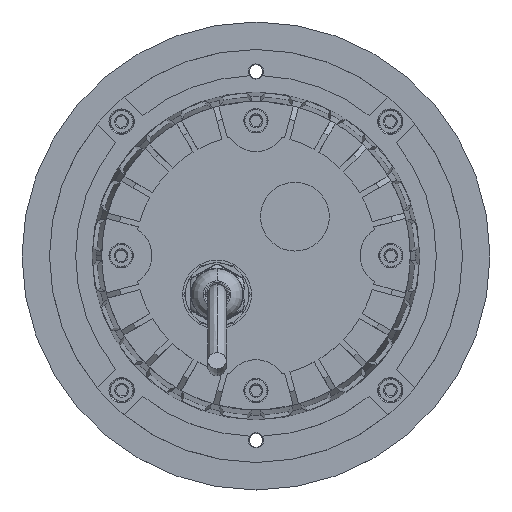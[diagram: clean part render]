
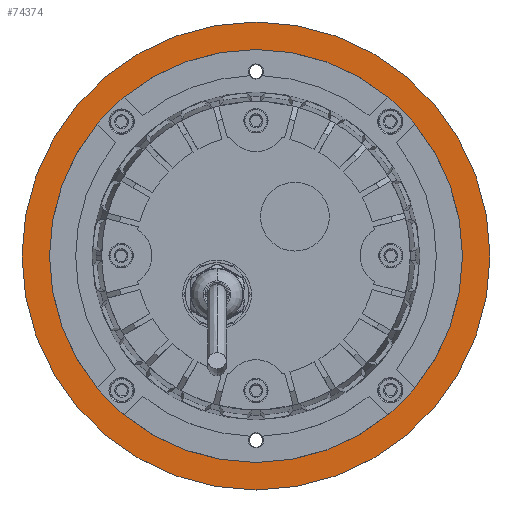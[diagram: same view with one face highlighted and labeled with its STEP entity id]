
A CAD part, top view. The second image highlights one B-rep face of the part: STEP entity #74374.
In plain terms, the highlighted planar face has unit normal (0, 0, 1).
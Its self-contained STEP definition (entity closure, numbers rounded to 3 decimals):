
#73519=CARTESIAN_POINT('',(0.,0.,3.));
#73520=DIRECTION('',(0.,0.,1.));
#73521=DIRECTION('',(1.,0.,0.));
#73522=AXIS2_PLACEMENT_3D('',#73519,#73520,#73521);
#73528=CARTESIAN_POINT('',(48.79,-48.79,3.));
#73529=DIRECTION('',(0.,0.,-1.));
#73530=DIRECTION('',(1.,0.,0.));
#73531=AXIS2_PLACEMENT_3D('',#73528,#73529,#73530);
#73533=CARTESIAN_POINT('',(48.79,-48.79,3.));
#73534=DIRECTION('',(0.,0.,-1.));
#73535=DIRECTION('',(-1.,0.,0.));
#73536=AXIS2_PLACEMENT_3D('',#73533,#73534,#73535);
#73538=CARTESIAN_POINT('',(-48.79,-48.79,3.));
#73539=DIRECTION('',(0.,0.,-1.));
#73540=DIRECTION('',(1.,0.,0.));
#73541=AXIS2_PLACEMENT_3D('',#73538,#73539,#73540);
#73543=CARTESIAN_POINT('',(-48.79,-48.79,3.));
#73544=DIRECTION('',(0.,0.,-1.));
#73545=DIRECTION('',(-1.,0.,0.));
#73546=AXIS2_PLACEMENT_3D('',#73543,#73544,#73545);
#73548=CARTESIAN_POINT('',(-48.79,48.79,3.));
#73549=DIRECTION('',(0.,0.,-1.));
#73550=DIRECTION('',(1.,0.,0.));
#73551=AXIS2_PLACEMENT_3D('',#73548,#73549,#73550);
#73553=CARTESIAN_POINT('',(-48.79,48.79,3.));
#73554=DIRECTION('',(0.,0.,-1.));
#73555=DIRECTION('',(-1.,0.,0.));
#73556=AXIS2_PLACEMENT_3D('',#73553,#73554,#73555);
#73558=CARTESIAN_POINT('',(48.79,48.79,3.));
#73559=DIRECTION('',(0.,0.,-1.));
#73560=DIRECTION('',(1.,0.,0.));
#73561=AXIS2_PLACEMENT_3D('',#73558,#73559,#73560);
#73563=CARTESIAN_POINT('',(48.79,48.79,3.));
#73564=DIRECTION('',(0.,0.,-1.));
#73565=DIRECTION('',(-1.,0.,0.));
#73566=AXIS2_PLACEMENT_3D('',#73563,#73564,#73565);
#73568=CARTESIAN_POINT('',(0.,0.,3.));
#73569=DIRECTION('',(0.,0.,-1.));
#73570=DIRECTION('',(-1.,0.,0.));
#73571=AXIS2_PLACEMENT_3D('',#73568,#73569,#73570);
#73573=CARTESIAN_POINT('',(0.,0.,3.));
#73574=DIRECTION('',(0.,0.,-1.));
#73575=DIRECTION('',(1.,0.,0.));
#73576=AXIS2_PLACEMENT_3D('',#73573,#73574,#73575);
#73578=CARTESIAN_POINT('',(0.,-67.,3.));
#73579=DIRECTION('',(0.,0.,1.));
#73580=DIRECTION('',(-1.,0.,0.));
#73581=AXIS2_PLACEMENT_3D('',#73578,#73579,#73580);
#73583=CARTESIAN_POINT('',(0.,-67.,3.));
#73584=DIRECTION('',(0.,0.,1.));
#73585=DIRECTION('',(1.,0.,0.));
#73586=AXIS2_PLACEMENT_3D('',#73583,#73584,#73585);
#73588=CARTESIAN_POINT('',(0.,67.,3.));
#73589=DIRECTION('',(0.,0.,1.));
#73590=DIRECTION('',(-1.,0.,0.));
#73591=AXIS2_PLACEMENT_3D('',#73588,#73589,#73590);
#73593=CARTESIAN_POINT('',(0.,67.,3.));
#73594=DIRECTION('',(0.,0.,1.));
#73595=DIRECTION('',(1.,0.,0.));
#73596=AXIS2_PLACEMENT_3D('',#73593,#73594,#73595);
#73598=CARTESIAN_POINT('',(31.25,54.127,3.));
#73599=DIRECTION('',(0.,0.,-1.));
#73600=DIRECTION('',(1.,0.,0.));
#73601=AXIS2_PLACEMENT_3D('',#73598,#73599,#73600);
#73603=CARTESIAN_POINT('',(31.25,54.127,3.));
#73604=DIRECTION('',(0.,0.,-1.));
#73605=DIRECTION('',(-1.,0.,0.));
#73606=AXIS2_PLACEMENT_3D('',#73603,#73604,#73605);
#73608=CARTESIAN_POINT('',(62.5,0.,3.));
#73609=DIRECTION('',(0.,0.,-1.));
#73610=DIRECTION('',(1.,0.,0.));
#73611=AXIS2_PLACEMENT_3D('',#73608,#73609,#73610);
#73613=CARTESIAN_POINT('',(62.5,0.,3.));
#73614=DIRECTION('',(0.,0.,-1.));
#73615=DIRECTION('',(-1.,0.,0.));
#73616=AXIS2_PLACEMENT_3D('',#73613,#73614,#73615);
#73618=CARTESIAN_POINT('',(31.25,-54.127,3.));
#73619=DIRECTION('',(0.,0.,-1.));
#73620=DIRECTION('',(1.,0.,0.));
#73621=AXIS2_PLACEMENT_3D('',#73618,#73619,#73620);
#73623=CARTESIAN_POINT('',(31.25,-54.127,3.));
#73624=DIRECTION('',(0.,0.,-1.));
#73625=DIRECTION('',(-1.,0.,0.));
#73626=AXIS2_PLACEMENT_3D('',#73623,#73624,#73625);
#73628=CARTESIAN_POINT('',(-26.414,-56.644,3.));
#73629=DIRECTION('',(0.,0.,-1.));
#73630=DIRECTION('',(1.,0.,0.));
#73631=AXIS2_PLACEMENT_3D('',#73628,#73629,#73630);
#73633=CARTESIAN_POINT('',(-26.414,-56.644,3.));
#73634=DIRECTION('',(0.,0.,-1.));
#73635=DIRECTION('',(-1.,0.,0.));
#73636=AXIS2_PLACEMENT_3D('',#73633,#73634,#73635);
#73638=CARTESIAN_POINT('',(-26.414,56.644,3.));
#73639=DIRECTION('',(0.,0.,-1.));
#73640=DIRECTION('',(-1.,0.,0.));
#73641=AXIS2_PLACEMENT_3D('',#73638,#73639,#73640);
#73643=CARTESIAN_POINT('',(-26.414,56.644,3.));
#73644=DIRECTION('',(0.,0.,-1.));
#73645=DIRECTION('',(1.,0.,0.));
#73646=AXIS2_PLACEMENT_3D('',#73643,#73644,#73645);
#73648=CARTESIAN_POINT('',(0.,0.,3.));
#73649=DIRECTION('',(0.,0.,1.));
#73650=DIRECTION('',(-1.,0.,0.));
#73651=AXIS2_PLACEMENT_3D('',#73648,#73649,#73650);
#74053=CARTESIAN_POINT('',(-54.738,0.,3.));
#74054=CARTESIAN_POINT('',(54.738,0.,3.));
#74055=VERTEX_POINT('',#74053);
#74056=VERTEX_POINT('',#74054);
#74073=CARTESIAN_POINT('',(52.04,48.79,3.));
#74074=CARTESIAN_POINT('',(45.54,48.79,3.));
#74075=VERTEX_POINT('',#74073);
#74076=VERTEX_POINT('',#74074);
#74077=CARTESIAN_POINT('',(-45.54,48.79,3.));
#74078=CARTESIAN_POINT('',(-52.04,48.79,3.));
#74079=VERTEX_POINT('',#74077);
#74080=VERTEX_POINT('',#74078);
#74081=CARTESIAN_POINT('',(-45.54,-48.79,3.));
#74082=CARTESIAN_POINT('',(-52.04,-48.79,3.));
#74083=VERTEX_POINT('',#74081);
#74084=VERTEX_POINT('',#74082);
#74085=CARTESIAN_POINT('',(52.04,-48.79,3.));
#74086=CARTESIAN_POINT('',(45.54,-48.79,3.));
#74087=VERTEX_POINT('',#74085);
#74088=VERTEX_POINT('',#74086);
#74089=CARTESIAN_POINT('',(-85.,0.,3.));
#74090=CARTESIAN_POINT('',(85.,0.,3.));
#74091=VERTEX_POINT('',#74089);
#74092=VERTEX_POINT('',#74090);
#74113=CARTESIAN_POINT('',(35.35,54.127,3.));
#74114=CARTESIAN_POINT('',(27.15,54.127,3.));
#74115=VERTEX_POINT('',#74113);
#74116=VERTEX_POINT('',#74114);
#74121=CARTESIAN_POINT('',(66.6,0.,3.));
#74122=CARTESIAN_POINT('',(58.4,0.,3.));
#74123=VERTEX_POINT('',#74121);
#74124=VERTEX_POINT('',#74122);
#74129=CARTESIAN_POINT('',(35.35,-54.127,3.));
#74130=CARTESIAN_POINT('',(27.15,-54.127,3.));
#74131=VERTEX_POINT('',#74129);
#74132=VERTEX_POINT('',#74130);
#74169=CARTESIAN_POINT('',(-2.5,-67.,3.));
#74170=CARTESIAN_POINT('',(2.5,-67.,3.));
#74171=VERTEX_POINT('',#74169);
#74172=VERTEX_POINT('',#74170);
#74173=CARTESIAN_POINT('',(-2.5,67.,3.));
#74174=CARTESIAN_POINT('',(2.5,67.,3.));
#74175=VERTEX_POINT('',#74173);
#74176=VERTEX_POINT('',#74174);
#74201=CARTESIAN_POINT('',(-22.314,-56.644,3.));
#74202=CARTESIAN_POINT('',(-30.514,-56.644,3.));
#74203=VERTEX_POINT('',#74201);
#74204=VERTEX_POINT('',#74202);
#74209=CARTESIAN_POINT('',(-30.514,56.644,3.));
#74210=CARTESIAN_POINT('',(-22.314,56.644,3.));
#74211=VERTEX_POINT('',#74209);
#74212=VERTEX_POINT('',#74210);
#74292=CARTESIAN_POINT('',(0.,0.,3.));
#74293=DIRECTION('',(0.,0.,1.));
#74294=DIRECTION('',(1.,0.,0.));
#74295=AXIS2_PLACEMENT_3D('',#74292,#74293,#74294);
#74296=PLANE('',#74295);
#74298=ORIENTED_EDGE('',*,*,#74297,.T.);
#74300=ORIENTED_EDGE('',*,*,#74299,.T.);
#74301=EDGE_LOOP('',(#74298,#74300));
#74302=FACE_OUTER_BOUND('',#74301,.F.);
#74304=ORIENTED_EDGE('',*,*,#74303,.F.);
#74306=ORIENTED_EDGE('',*,*,#74305,.F.);
#74307=EDGE_LOOP('',(#74304,#74306));
#74308=FACE_BOUND('',#74307,.F.);
#74310=ORIENTED_EDGE('',*,*,#74309,.F.);
#74312=ORIENTED_EDGE('',*,*,#74311,.F.);
#74313=EDGE_LOOP('',(#74310,#74312));
#74314=FACE_BOUND('',#74313,.F.);
#74316=ORIENTED_EDGE('',*,*,#74315,.F.);
#74318=ORIENTED_EDGE('',*,*,#74317,.F.);
#74319=EDGE_LOOP('',(#74316,#74318));
#74320=FACE_BOUND('',#74319,.F.);
#74322=ORIENTED_EDGE('',*,*,#74321,.F.);
#74324=ORIENTED_EDGE('',*,*,#74323,.F.);
#74325=EDGE_LOOP('',(#74322,#74324));
#74326=FACE_BOUND('',#74325,.F.);
#74328=ORIENTED_EDGE('',*,*,#74327,.T.);
#74329=ORIENTED_EDGE('',*,*,#74282,.T.);
#74330=EDGE_LOOP('',(#74328,#74329));
#74331=FACE_BOUND('',#74330,.F.);
#74333=ORIENTED_EDGE('',*,*,#74332,.T.);
#74335=ORIENTED_EDGE('',*,*,#74334,.T.);
#74336=EDGE_LOOP('',(#74333,#74335));
#74337=FACE_BOUND('',#74336,.F.);
#74339=ORIENTED_EDGE('',*,*,#74338,.T.);
#74341=ORIENTED_EDGE('',*,*,#74340,.T.);
#74342=EDGE_LOOP('',(#74339,#74341));
#74343=FACE_BOUND('',#74342,.F.);
#74345=ORIENTED_EDGE('',*,*,#74344,.F.);
#74347=ORIENTED_EDGE('',*,*,#74346,.F.);
#74348=EDGE_LOOP('',(#74345,#74347));
#74349=FACE_BOUND('',#74348,.F.);
#74351=ORIENTED_EDGE('',*,*,#74350,.F.);
#74353=ORIENTED_EDGE('',*,*,#74352,.F.);
#74354=EDGE_LOOP('',(#74351,#74353));
#74355=FACE_BOUND('',#74354,.F.);
#74357=ORIENTED_EDGE('',*,*,#74356,.F.);
#74359=ORIENTED_EDGE('',*,*,#74358,.F.);
#74360=EDGE_LOOP('',(#74357,#74359));
#74361=FACE_BOUND('',#74360,.F.);
#74363=ORIENTED_EDGE('',*,*,#74362,.F.);
#74365=ORIENTED_EDGE('',*,*,#74364,.F.);
#74366=EDGE_LOOP('',(#74363,#74365));
#74367=FACE_BOUND('',#74366,.F.);
#74369=ORIENTED_EDGE('',*,*,#74368,.F.);
#74371=ORIENTED_EDGE('',*,*,#74370,.F.);
#74372=EDGE_LOOP('',(#74369,#74371));
#74373=FACE_BOUND('',#74372,.F.);
#74374=ADVANCED_FACE('',(#74302,#74308,#74314,#74320,#74326,#74331,#74337,
#74343,#74349,#74355,#74361,#74367,#74373),#74296,.T.);
#73523=CIRCLE('',#73522,54.738);
#73532=CIRCLE('',#73531,3.25);
#73537=CIRCLE('',#73536,3.25);
#73542=CIRCLE('',#73541,3.25);
#73547=CIRCLE('',#73546,3.25);
#73552=CIRCLE('',#73551,3.25);
#73557=CIRCLE('',#73556,3.25);
#73562=CIRCLE('',#73561,3.25);
#73567=CIRCLE('',#73566,3.25);
#73572=CIRCLE('',#73571,85.);
#73577=CIRCLE('',#73576,85.);
#73582=CIRCLE('',#73581,2.5);
#73587=CIRCLE('',#73586,2.5);
#73592=CIRCLE('',#73591,2.5);
#73597=CIRCLE('',#73596,2.5);
#73602=CIRCLE('',#73601,4.1);
#73607=CIRCLE('',#73606,4.1);
#73612=CIRCLE('',#73611,4.1);
#73617=CIRCLE('',#73616,4.1);
#73622=CIRCLE('',#73621,4.1);
#73627=CIRCLE('',#73626,4.1);
#73632=CIRCLE('',#73631,4.1);
#73637=CIRCLE('',#73636,4.1);
#73642=CIRCLE('',#73641,4.1);
#73647=CIRCLE('',#73646,4.1);
#73652=CIRCLE('',#73651,54.738);
#74282=EDGE_CURVE('',#74056,#74055,#73523,.T.);
#74297=EDGE_CURVE('',#74091,#74092,#73572,.T.);
#74299=EDGE_CURVE('',#74092,#74091,#73577,.T.);
#74303=EDGE_CURVE('',#74087,#74088,#73532,.T.);
#74305=EDGE_CURVE('',#74088,#74087,#73537,.T.);
#74309=EDGE_CURVE('',#74083,#74084,#73542,.T.);
#74311=EDGE_CURVE('',#74084,#74083,#73547,.T.);
#74315=EDGE_CURVE('',#74079,#74080,#73552,.T.);
#74317=EDGE_CURVE('',#74080,#74079,#73557,.T.);
#74321=EDGE_CURVE('',#74075,#74076,#73562,.T.);
#74323=EDGE_CURVE('',#74076,#74075,#73567,.T.);
#74327=EDGE_CURVE('',#74055,#74056,#73652,.T.);
#74332=EDGE_CURVE('',#74171,#74172,#73582,.T.);
#74334=EDGE_CURVE('',#74172,#74171,#73587,.T.);
#74338=EDGE_CURVE('',#74175,#74176,#73592,.T.);
#74340=EDGE_CURVE('',#74176,#74175,#73597,.T.);
#74344=EDGE_CURVE('',#74115,#74116,#73602,.T.);
#74346=EDGE_CURVE('',#74116,#74115,#73607,.T.);
#74350=EDGE_CURVE('',#74123,#74124,#73612,.T.);
#74352=EDGE_CURVE('',#74124,#74123,#73617,.T.);
#74356=EDGE_CURVE('',#74131,#74132,#73622,.T.);
#74358=EDGE_CURVE('',#74132,#74131,#73627,.T.);
#74362=EDGE_CURVE('',#74203,#74204,#73632,.T.);
#74364=EDGE_CURVE('',#74204,#74203,#73637,.T.);
#74368=EDGE_CURVE('',#74211,#74212,#73642,.T.);
#74370=EDGE_CURVE('',#74212,#74211,#73647,.T.);
